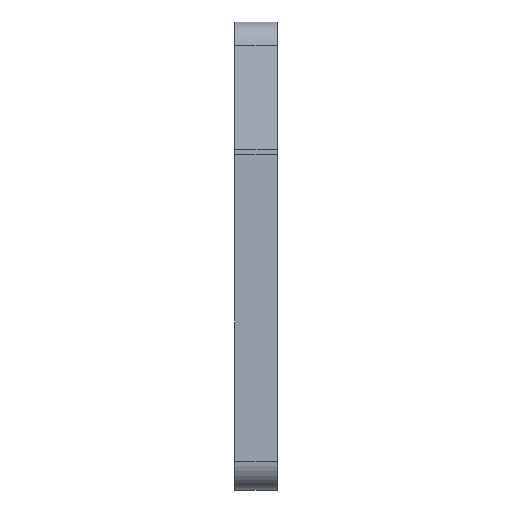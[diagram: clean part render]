
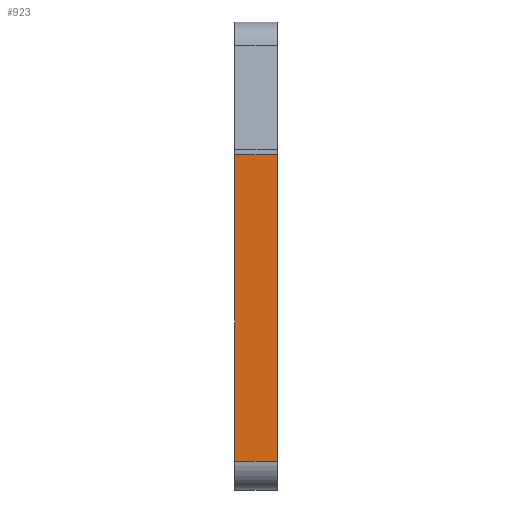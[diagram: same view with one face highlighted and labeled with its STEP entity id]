
A CAD part, front view. The second image highlights one B-rep face of the part: STEP entity #923.
In plain terms, the highlighted planar face has unit normal (0, -1, 0).
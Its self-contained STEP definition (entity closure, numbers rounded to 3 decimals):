
#23 = EDGE_LOOP ( 'NONE', ( #1252, #703, #601, #1374 ) ) ;
#148 = AXIS2_PLACEMENT_3D ( 'NONE', #998, #991, #880 ) ;
#189 = DIRECTION ( 'NONE',  ( 0., 0., 1. ) ) ;
#203 = EDGE_CURVE ( 'NONE', #1513, #637, #396, .T. ) ;
#267 = CARTESIAN_POINT ( 'NONE',  ( 2.2, 13.95, 27.959 ) ) ;
#299 = LINE ( 'NONE', #307, #550 ) ;
#307 = CARTESIAN_POINT ( 'NONE',  ( 0., 13.95, 27.959 ) ) ;
#396 = LINE ( 'NONE', #267, #1236 ) ;
#413 = EDGE_CURVE ( 'NONE', #887, #540, #1526, .T. ) ;
#528 = FACE_OUTER_BOUND ( 'NONE', #23, .T. ) ;
#540 = VERTEX_POINT ( 'NONE', #1412 ) ;
#550 = VECTOR ( 'NONE', #658, 1000. ) ;
#601 = ORIENTED_EDGE ( 'NONE', *, *, #796, .T. ) ;
#637 = VERTEX_POINT ( 'NONE', #1457 ) ;
#646 = PLANE ( 'NONE',  #148 ) ;
#658 = DIRECTION ( 'NONE',  ( 0., 0., -1. ) ) ;
#703 = ORIENTED_EDGE ( 'NONE', *, *, #203, .T. ) ;
#727 = DIRECTION ( 'NONE',  ( -1., 0., 0. ) ) ;
#778 = CARTESIAN_POINT ( 'NONE',  ( 0., 13.95, 11.9 ) ) ;
#796 = EDGE_CURVE ( 'NONE', #637, #887, #299, .T. ) ;
#880 = DIRECTION ( 'NONE',  ( -1., 0., 0. ) ) ;
#887 = VERTEX_POINT ( 'NONE', #778 ) ;
#905 = CARTESIAN_POINT ( 'NONE',  ( 2.2, 13.95, 11.9 ) ) ;
#923 = ADVANCED_FACE ( 'NONE', ( #528 ), #646, .T. ) ;
#930 = EDGE_CURVE ( 'NONE', #540, #1513, #1133, .T. ) ;
#991 = DIRECTION ( 'NONE',  ( 0., -1., 0. ) ) ;
#998 = CARTESIAN_POINT ( 'NONE',  ( 0.7, 13.95, 27.907 ) ) ;
#1025 = VECTOR ( 'NONE', #189, 1000. ) ;
#1133 = LINE ( 'NONE', #905, #1025 ) ;
#1135 = VECTOR ( 'NONE', #1157, 1000. ) ;
#1157 = DIRECTION ( 'NONE',  ( 1., 0., 0. ) ) ;
#1178 = CARTESIAN_POINT ( 'NONE',  ( 0., 13.95, 11.9 ) ) ;
#1236 = VECTOR ( 'NONE', #727, 1000. ) ;
#1252 = ORIENTED_EDGE ( 'NONE', *, *, #930, .T. ) ;
#1319 = CARTESIAN_POINT ( 'NONE',  ( 2.2, 13.95, 27.959 ) ) ;
#1374 = ORIENTED_EDGE ( 'NONE', *, *, #413, .T. ) ;
#1412 = CARTESIAN_POINT ( 'NONE',  ( 2.2, 13.95, 11.9 ) ) ;
#1457 = CARTESIAN_POINT ( 'NONE',  ( 0., 13.95, 27.959 ) ) ;
#1513 = VERTEX_POINT ( 'NONE', #1319 ) ;
#1526 = LINE ( 'NONE', #1178, #1135 ) ;
